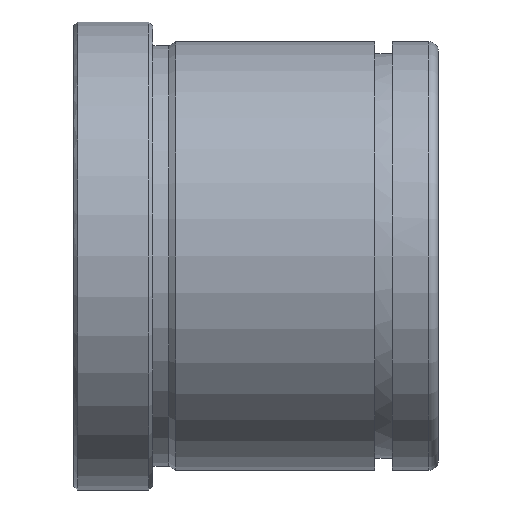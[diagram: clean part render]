
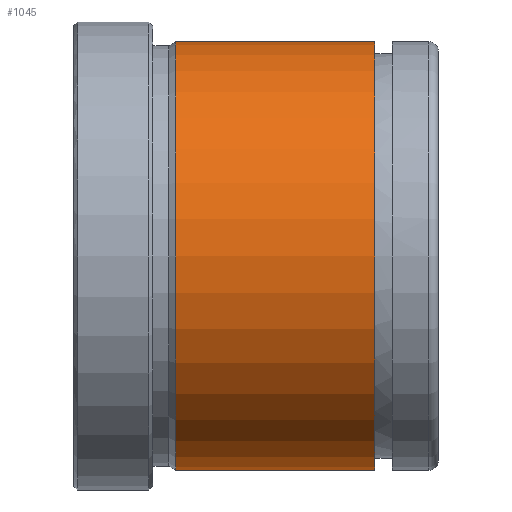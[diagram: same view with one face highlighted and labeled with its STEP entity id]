
A CAD part, front view. The second image highlights one B-rep face of the part: STEP entity #1045.
In plain terms, the highlighted cylindrical face has radius 27 mm (diameter 54 mm), a partial arc.
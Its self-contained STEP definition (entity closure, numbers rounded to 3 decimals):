
#851=CARTESIAN_POINT('Vertex',(12.866,0.,-27.)) ;
#858=CARTESIAN_POINT('Vertex',(12.866,0.,27.)) ;
#887=CARTESIAN_POINT('Axis2P3D Location',(12.866,0.,0.)) ;
#891=CARTESIAN_POINT('Vertex',(12.866,-27.,0.)) ;
#894=CARTESIAN_POINT('Axis2P3D Location',(12.866,0.,0.)) ;
#985=CARTESIAN_POINT('Line Origine',(92.,0.,27.)) ;
#989=CARTESIAN_POINT('Vertex',(38.,0.,27.)) ;
#1003=CARTESIAN_POINT('Vertex',(38.,0.,-27.)) ;
#1006=CARTESIAN_POINT('Line Origine',(92.,0.,-27.)) ;
#1020=CARTESIAN_POINT('Axis2P3D Location',(92.,0.,0.)) ;
#1025=CARTESIAN_POINT('Axis2P3D Location',(38.,0.,0.)) ;
#1029=CARTESIAN_POINT('Vertex',(38.,-27.,0.)) ;
#1032=CARTESIAN_POINT('Axis2P3D Location',(38.,0.,0.)) ;
#888=DIRECTION('Axis2P3D Direction',(1.,0.,-0.)) ;
#895=DIRECTION('Axis2P3D Direction',(1.,0.,-0.)) ;
#986=DIRECTION('Vector Direction',(-1.,0.,0.)) ;
#1007=DIRECTION('Vector Direction',(-1.,0.,0.)) ;
#1021=DIRECTION('Axis2P3D Direction',(-1.,-0.,-0.)) ;
#1022=DIRECTION('Axis2P3D XDirection',(0.,0.,-1.)) ;
#1026=DIRECTION('Axis2P3D Direction',(-1.,-0.,-0.)) ;
#1033=DIRECTION('Axis2P3D Direction',(-1.,-0.,-0.)) ;
#889=AXIS2_PLACEMENT_3D('Circle Axis2P3D',#887,#888,$) ;
#896=AXIS2_PLACEMENT_3D('Circle Axis2P3D',#894,#895,$) ;
#1023=AXIS2_PLACEMENT_3D('Cylinder Axis2P3D',#1020,#1021,#1022) ;
#1027=AXIS2_PLACEMENT_3D('Circle Axis2P3D',#1025,#1026,$) ;
#1034=AXIS2_PLACEMENT_3D('Circle Axis2P3D',#1032,#1033,$) ;
#1038=ORIENTED_EDGE('',*,*,#1010,.T.) ;
#1039=ORIENTED_EDGE('',*,*,#1031,.F.) ;
#1040=ORIENTED_EDGE('',*,*,#1036,.F.) ;
#1041=ORIENTED_EDGE('',*,*,#991,.T.) ;
#1042=ORIENTED_EDGE('',*,*,#898,.T.) ;
#1043=ORIENTED_EDGE('',*,*,#893,.T.) ;
#987=VECTOR('Line Direction',#986,1.) ;
#1008=VECTOR('Line Direction',#1007,1.) ;
#1045=ADVANCED_FACE('553-40X46',(#1044),#1024,.T.) ;
#890=CIRCLE('generated circle',#889,27.) ;
#897=CIRCLE('generated circle',#896,27.) ;
#1028=CIRCLE('generated circle',#1027,27.) ;
#1035=CIRCLE('generated circle',#1034,27.) ;
#1024=CYLINDRICAL_SURFACE('generated cylinder',#1023,27.) ;
#893=EDGE_CURVE('',#892,#852,#890,.T.) ;
#898=EDGE_CURVE('',#859,#892,#897,.T.) ;
#991=EDGE_CURVE('',#990,#859,#988,.T.) ;
#1010=EDGE_CURVE('',#852,#1004,#1009,.F.) ;
#1031=EDGE_CURVE('',#1030,#1004,#1028,.F.) ;
#1036=EDGE_CURVE('',#990,#1030,#1035,.F.) ;
#1037=EDGE_LOOP('',(#1038,#1039,#1040,#1041,#1042,#1043)) ;
#1044=FACE_OUTER_BOUND('',#1037,.T.) ;
#988=LINE('Line',#985,#987) ;
#1009=LINE('Line',#1006,#1008) ;
#852=VERTEX_POINT('',#851) ;
#859=VERTEX_POINT('',#858) ;
#892=VERTEX_POINT('',#891) ;
#990=VERTEX_POINT('',#989) ;
#1004=VERTEX_POINT('',#1003) ;
#1030=VERTEX_POINT('',#1029) ;
